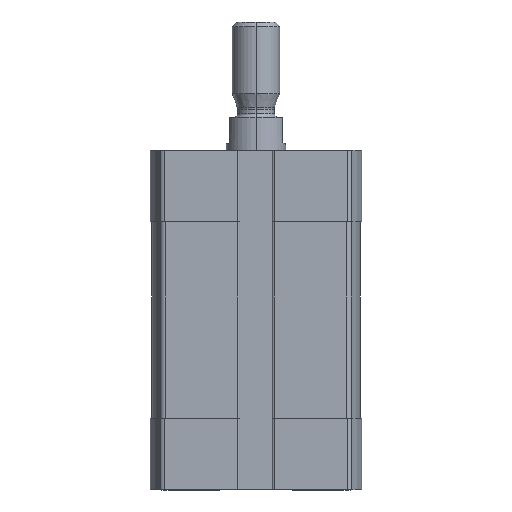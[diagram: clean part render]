
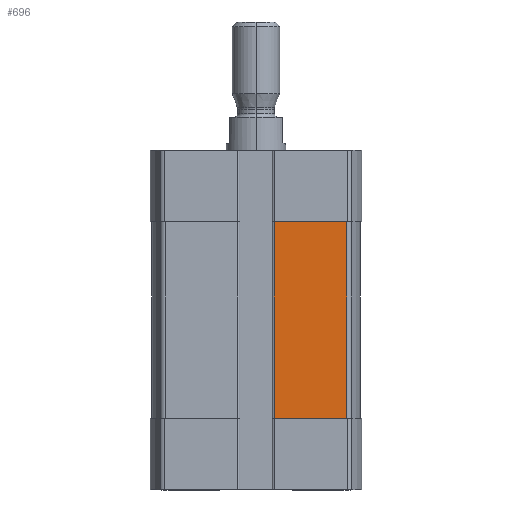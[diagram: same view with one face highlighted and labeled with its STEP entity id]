
A CAD part, left-side view. The second image highlights one B-rep face of the part: STEP entity #696.
In plain terms, the highlighted planar face has unit normal (-1, 0, 0).
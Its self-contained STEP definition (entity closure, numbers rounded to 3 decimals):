
#283 = VERTEX_POINT ( 'NONE', #6994 ) ;
#301 = CARTESIAN_POINT ( 'NONE',  ( -17.5, -3.1, -45. ) ) ;
#536 = CARTESIAN_POINT ( 'NONE',  ( -17.5, -3.1, -45. ) ) ;
#696 = ADVANCED_FACE ( 'NONE', ( #7766 ), #6919, .T. ) ;
#872 = VERTEX_POINT ( 'NONE', #11019 ) ;
#1085 = DIRECTION ( 'NONE',  ( 0., 0., 1. ) ) ;
#1248 = LINE ( 'NONE', #5725, #11440 ) ;
#1904 = VERTEX_POINT ( 'NONE', #536 ) ;
#2789 = LINE ( 'NONE', #301, #4838 ) ;
#3940 = DIRECTION ( 'NONE',  ( 0., 0., 1. ) ) ;
#3987 = VECTOR ( 'NONE', #3940, 1000. ) ;
#4063 = ORIENTED_EDGE ( 'NONE', *, *, #4135, .T. ) ;
#4135 = EDGE_CURVE ( 'NONE', #11167, #872, #5014, .T. ) ;
#4676 = VECTOR ( 'NONE', #1085, 1000. ) ;
#4838 = VECTOR ( 'NONE', #8415, 1000. ) ;
#5014 = LINE ( 'NONE', #8149, #4676 ) ;
#5725 = CARTESIAN_POINT ( 'NONE',  ( -17.5, 0., -12. ) ) ;
#5726 = ORIENTED_EDGE ( 'NONE', *, *, #12308, .T. ) ;
#5742 = CARTESIAN_POINT ( 'NONE',  ( -17.5, -15.253, -45. ) ) ;
#6235 = EDGE_CURVE ( 'NONE', #1904, #283, #12482, .T. ) ;
#6919 = PLANE ( 'NONE',  #7850 ) ;
#6970 = CARTESIAN_POINT ( 'NONE',  ( -17.5, -3.1, -45. ) ) ;
#6994 = CARTESIAN_POINT ( 'NONE',  ( -17.5, -3.1, -12. ) ) ;
#7046 = DIRECTION ( 'NONE',  ( -1., 0., 0. ) ) ;
#7099 = DIRECTION ( 'NONE',  ( 0., 0., 1. ) ) ;
#7766 = FACE_OUTER_BOUND ( 'NONE', #8330, .T. ) ;
#7850 = AXIS2_PLACEMENT_3D ( 'NONE', #6970, #7046, #7099 ) ;
#8149 = CARTESIAN_POINT ( 'NONE',  ( -17.5, -15.253, -45. ) ) ;
#8330 = EDGE_LOOP ( 'NONE', ( #5726, #4063, #11011, #10402 ) ) ;
#8415 = DIRECTION ( 'NONE',  ( 0., -1., 0. ) ) ;
#9847 = DIRECTION ( 'NONE',  ( 0., 1., 0. ) ) ;
#10402 = ORIENTED_EDGE ( 'NONE', *, *, #6235, .F. ) ;
#11011 = ORIENTED_EDGE ( 'NONE', *, *, #11920, .T. ) ;
#11019 = CARTESIAN_POINT ( 'NONE',  ( -17.5, -15.253, -12. ) ) ;
#11167 = VERTEX_POINT ( 'NONE', #5742 ) ;
#11440 = VECTOR ( 'NONE', #9847, 1000. ) ;
#11920 = EDGE_CURVE ( 'NONE', #872, #283, #1248, .T. ) ;
#12308 = EDGE_CURVE ( 'NONE', #1904, #11167, #2789, .T. ) ;
#12482 = LINE ( 'NONE', #13152, #3987 ) ;
#13152 = CARTESIAN_POINT ( 'NONE',  ( -17.5, -3.1, -45. ) ) ;
